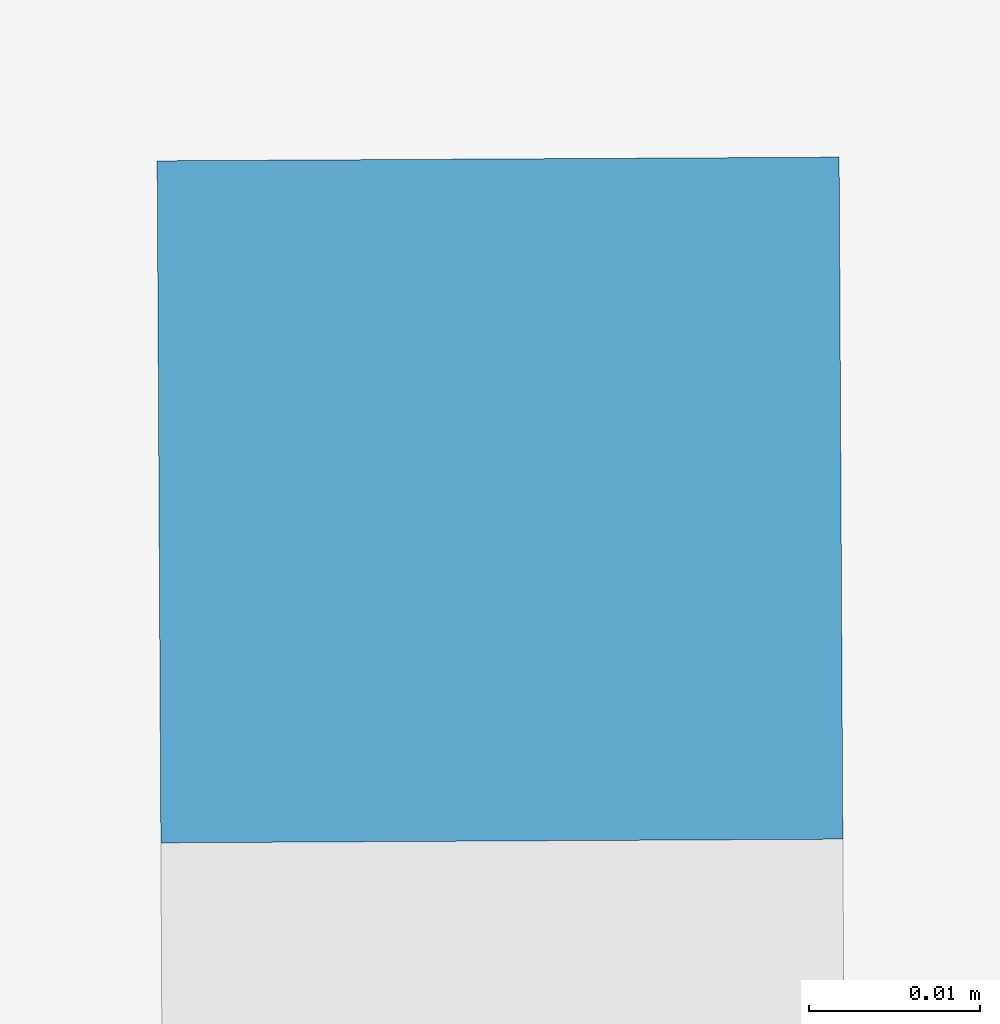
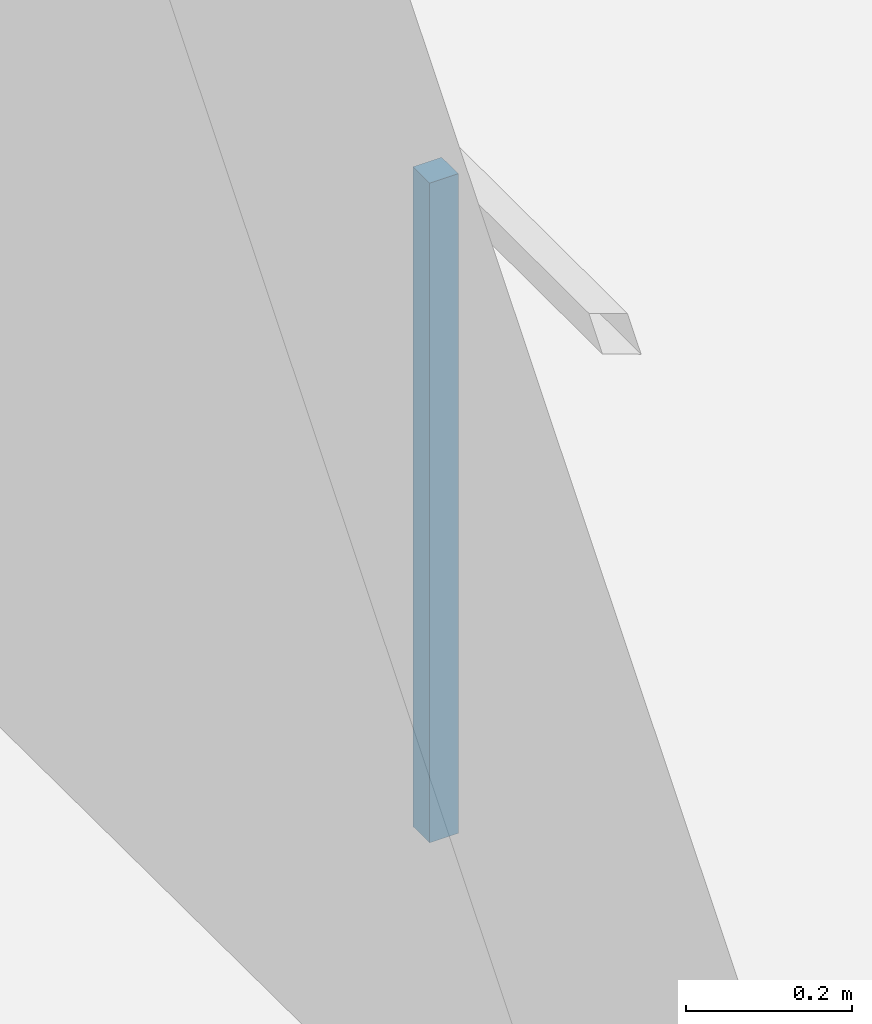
# One storey, part 6 of 196: 1 column.
"""IFC2X3 building model written with IfcOpenShell, lengths in metres."""

from ifc_helpers import new_model, entity, si_unit, converted_unit, derived_unit, money_unit, direction, frame, origin_with_axes, origin_2d_with_axis, place, context, subcontext, project, spatial, rectangle, extrude, material, type_object, element, save


model = new_model("IFC2X3")

# Units and contexts
model_context = context("Model", 3, precision=1e-05, world=origin_with_axes(), true_north=direction((0.0, 1.0)))
body_context = subcontext(model_context, "Body", "Model", "MODEL_VIEW")
ifc_project = project(units=[si_unit("LENGTHUNIT", "METRE"), si_unit("AREAUNIT", "SQUARE_METRE"), si_unit("VOLUMEUNIT", "CUBIC_METRE"), converted_unit("PLANEANGLEUNIT", "DEGREE", entity("IfcPlaneAngleMeasure", 0.0174532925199), si_unit("PLANEANGLEUNIT", "RADIAN"), dimensions=[0, 0, 0, 0, 0, 0, 0]), money_unit("EUR"), converted_unit("TIMEUNIT", "Year", entity("IfcTimeMeasure", 31556926.0), si_unit("TIMEUNIT", "SECOND"), dimensions=[0, 0, 1, 0, 0, 0, 0]), si_unit("MASSUNIT", "GRAM", prefix="KILO"), si_unit("THERMODYNAMICTEMPERATUREUNIT", "DEGREE_CELSIUS"), si_unit("LUMINOUSINTENSITYUNIT", "LUMEN"), si_unit("ENERGYUNIT", "JOULE", prefix="MEGA"), derived_unit("THERMALCONDUCTANCEUNIT", [(si_unit("POWERUNIT", "WATT"), 1), (si_unit("LENGTHUNIT", "METRE"), -1), (si_unit("THERMODYNAMICTEMPERATUREUNIT", "KELVIN"), -1)]), derived_unit("SPECIFICHEATCAPACITYUNIT", [(si_unit("ENERGYUNIT", "JOULE"), 1), (si_unit("MASSUNIT", "GRAM", prefix="KILO"), -1), (si_unit("THERMODYNAMICTEMPERATUREUNIT", "KELVIN"), -1)]), derived_unit("MASSDENSITYUNIT", [(si_unit("MASSUNIT", "GRAM", prefix="KILO"), 1), (si_unit("VOLUMEUNIT", "CUBIC_METRE"), -1)])], contexts=[model_context])

# Site, building, storey
site_placement = place(None, origin_with_axes())
site = spatial("IfcSite", under=ifc_project, at=site_placement, Name="Gelände", CompositionType="ELEMENT")
building_placement = place(site_placement, origin_with_axes())
building = spatial("IfcBuilding", under=site, at=building_placement, Name="Gebäude", CompositionType="ELEMENT")
storey_placement = place(building_placement, frame((0.0, 0.0, -3.0), z_axis=(0.0, 0.0, 1.0), x_axis=(1.0, 0.0, 0.0)))
storey = spatial("IfcBuildingStorey", under=building, at=storey_placement, Name="KELLERGESCHOSS", CompositionType="ELEMENT", Elevation=-3.0)

# Column
ifc_material = material(Name="05_ALLGEMEIN - TRAGENDE BAUTEILE")
column_type = type_object("IfcColumnType", Name="05_ALLGEMEIN - TRAGENDE BAUTEILE 40 x 40", PredefinedType="COLUMN")
column_placement = place(storey_placement, frame((-26.5890857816, 38.327389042, 0.417758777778), z_axis=(0.0, 0.0, 1.0), x_axis=(0.998417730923, -0.0562319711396, 0.0)))
element("IfcColumn", 1, at=column_placement, inside=storey, type_object=column_type, material=ifc_material, Name="Stütze-008", ObjectType="COLUMN", context=body_context, shape_type="SweptSolid", body=[
    extrude(rectangle(XDim=0.04, YDim=0.04, at=origin_2d_with_axis()), frame((0.0, 0.0, 0.0), z_axis=(0.0, 0.0, 1.0), x_axis=(-0.0616685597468, 0.998096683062, 0.0)), (0.0, 0.0, 1.0), 0.968760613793),
])

save(model, "model.ifc")
